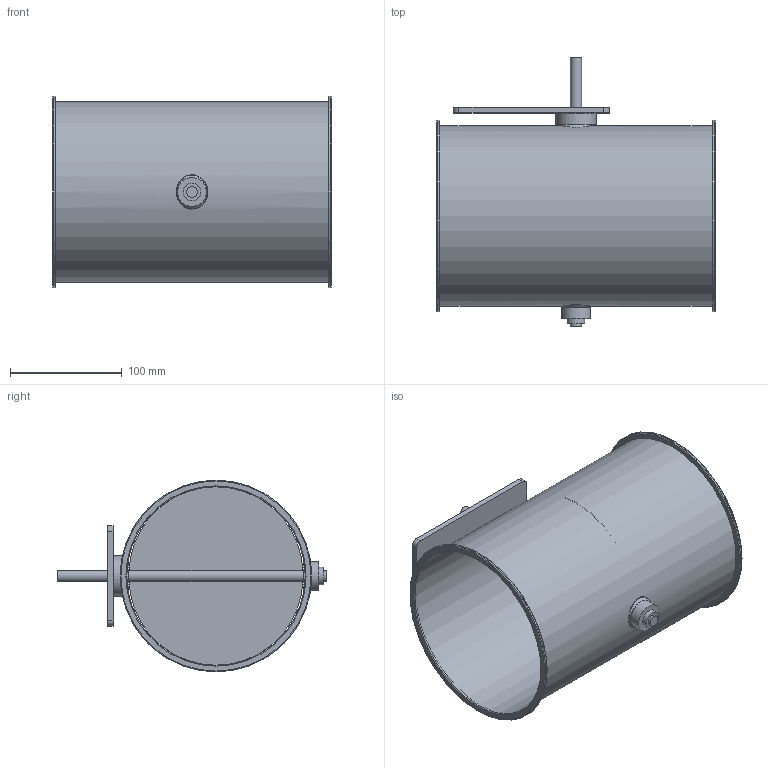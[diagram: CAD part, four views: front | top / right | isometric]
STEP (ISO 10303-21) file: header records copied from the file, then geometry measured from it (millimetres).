
FILE_DESCRIPTION(/* description */ (''),/* implementation_level */ '2;1');
FILE_NAME(/* name */ 'EA125-80B__160_L250_Belimo_Typ_NM.stp',/* time_stamp */ '2017-12-06T13:12:37+01:00',/* author */ (''),/* organization */ (''),/* preprocessor_version */ 'ST-DEVELOPER v11',/* originating_system */ 'SIEMENS UGS NX 6.0',/* authorisation */ '');
FILE_SCHEMA (('CONFIG_CONTROL_DESIGN'));
Length unit declared in the file: millimetre
Products named in the file (1): gars18E2j20p
Bounding box: 250 x 241 x 172 mm (x, y, z)
Volume: 235187.8 mm3; surface area: 347783.5 mm2
Topology: 8 solids, 8 shells, 76 faces, 161 edges, 109 vertices
Faces by surface type: plane 30, cylinder 28, torus 10, cone 4, bspline 4
Full cylindrical faces by diameter (mm): 4.1 x4, 10 x3, 15 x3, 15.85 x2, 16 x2, 24 x2, 26 x1, 36 x1, 160 x1, 161.6 x1, 172 x2
Entity records: 2394 total; most frequent: CARTESIAN_POINT 871, DIRECTION 310, ORIENTED_EDGE 204, EDGE_LOOP 148, AXIS2_PLACEMENT_3D 143, FACE_BOUND 134, EDGE_CURVE 102, VERTEX_POINT 90
